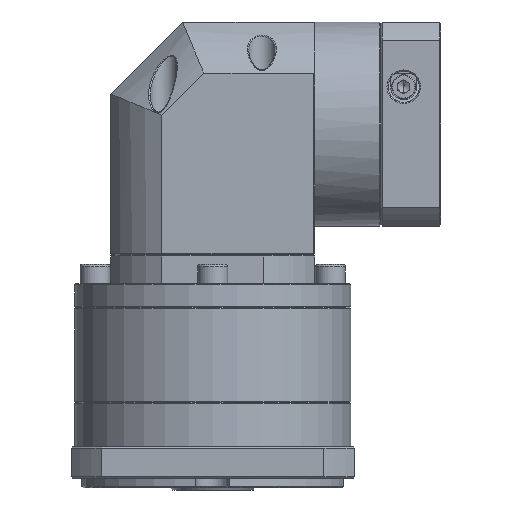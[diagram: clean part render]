
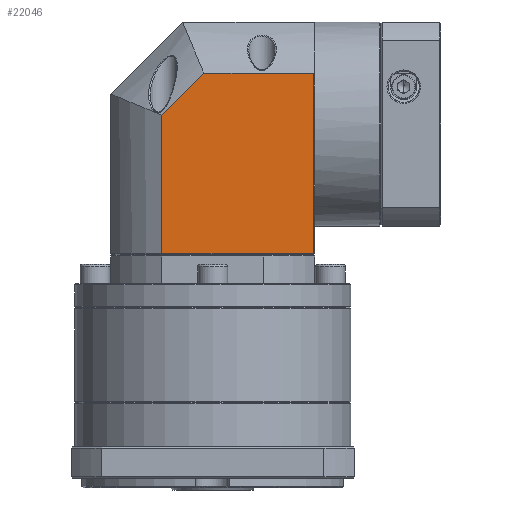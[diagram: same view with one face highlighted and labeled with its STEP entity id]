
A CAD part, front view. The second image highlights one B-rep face of the part: STEP entity #22046.
In plain terms, the highlighted planar face has unit normal (0, -1, 0).
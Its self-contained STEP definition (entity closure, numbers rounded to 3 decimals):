
#2144 = VECTOR ( 'NONE', #42088, 1000. ) ;
#6133 = DIRECTION ( 'NONE',  ( 0., 0., 1. ) ) ;
#7089 = LINE ( 'NONE', #65980, #22688 ) ;
#8118 = CARTESIAN_POINT ( 'NONE',  ( 114.514, 44.087, 45.911 ) ) ;
#12163 = PLANE ( 'NONE',  #65278 ) ;
#13919 = ORIENTED_EDGE ( 'NONE', *, *, #61549, .T. ) ;
#14708 = CARTESIAN_POINT ( 'NONE',  ( 51.301, 44.087, 28.38 ) ) ;
#21468 = ORIENTED_EDGE ( 'NONE', *, *, #44632, .F. ) ;
#21774 = DIRECTION ( 'NONE',  ( 1., 0., 0. ) ) ;
#22046 = ADVANCED_FACE ( 'NONE', ( #50373 ), #12163, .F. ) ;
#22441 = VERTEX_POINT ( 'NONE', #57262 ) ;
#22688 = VECTOR ( 'NONE', #49233, 1000. ) ;
#29612 = VERTEX_POINT ( 'NONE', #8118 ) ;
#30393 = CARTESIAN_POINT ( 'NONE',  ( 51.301, 44.087, 28.38 ) ) ;
#36222 = ORIENTED_EDGE ( 'NONE', *, *, #56453, .F. ) ;
#42088 = DIRECTION ( 'NONE',  ( 1., 0., 0. ) ) ;
#44632 = EDGE_CURVE ( 'NONE', #69599, #29612, #92023, .T. ) ;
#49233 = DIRECTION ( 'NONE',  ( 0., 0., -1. ) ) ;
#50373 = FACE_OUTER_BOUND ( 'NONE', #76270, .T. ) ;
#54733 = VECTOR ( 'NONE', #116078, 1000. ) ;
#56453 = EDGE_CURVE ( 'NONE', #114451, #69599, #81834, .T. ) ;
#57262 = CARTESIAN_POINT ( 'NONE',  ( 114.514, 44.087, -29.303 ) ) ;
#61549 = EDGE_CURVE ( 'NONE', #103894, #22441, #63209, .T. ) ;
#62581 = EDGE_CURVE ( 'NONE', #29612, #22441, #7089, .T. ) ;
#63209 = LINE ( 'NONE', #76408, #100298 ) ;
#64625 = LINE ( 'NONE', #105902, #81777 ) ;
#65278 = AXIS2_PLACEMENT_3D ( 'NONE', #114325, #97461, #97865 ) ;
#65980 = CARTESIAN_POINT ( 'NONE',  ( 114.514, 44.087, 67.197 ) ) ;
#66183 = CARTESIAN_POINT ( 'NONE',  ( 51.301, 44.087, -29.303 ) ) ;
#69599 = VERTEX_POINT ( 'NONE', #84085 ) ;
#76270 = EDGE_LOOP ( 'NONE', ( #13919, #93569, #21468, #36222, #111688 ) ) ;
#76408 = CARTESIAN_POINT ( 'NONE',  ( 115.014, 44.087, -29.303 ) ) ;
#81777 = VECTOR ( 'NONE', #6133, 1000. ) ;
#81834 = LINE ( 'NONE', #14708, #54733 ) ;
#84085 = CARTESIAN_POINT ( 'NONE',  ( 68.832, 44.087, 45.911 ) ) ;
#92023 = LINE ( 'NONE', #106721, #2144 ) ;
#93569 = ORIENTED_EDGE ( 'NONE', *, *, #62581, .F. ) ;
#97461 = DIRECTION ( 'NONE',  ( 0., 1., 0. ) ) ;
#97865 = DIRECTION ( 'NONE',  ( -1., 0., 0. ) ) ;
#100298 = VECTOR ( 'NONE', #21774, 1000. ) ;
#103894 = VERTEX_POINT ( 'NONE', #66183 ) ;
#105902 = CARTESIAN_POINT ( 'NONE',  ( 51.301, 44.087, 67.197 ) ) ;
#106721 = CARTESIAN_POINT ( 'NONE',  ( 115.014, 44.087, 45.911 ) ) ;
#111688 = ORIENTED_EDGE ( 'NONE', *, *, #112674, .F. ) ;
#112674 = EDGE_CURVE ( 'NONE', #103894, #114451, #64625, .T. ) ;
#114325 = CARTESIAN_POINT ( 'NONE',  ( 115.014, 44.087, 67.197 ) ) ;
#114451 = VERTEX_POINT ( 'NONE', #30393 ) ;
#116078 = DIRECTION ( 'NONE',  ( 0.707, 0., 0.707 ) ) ;
